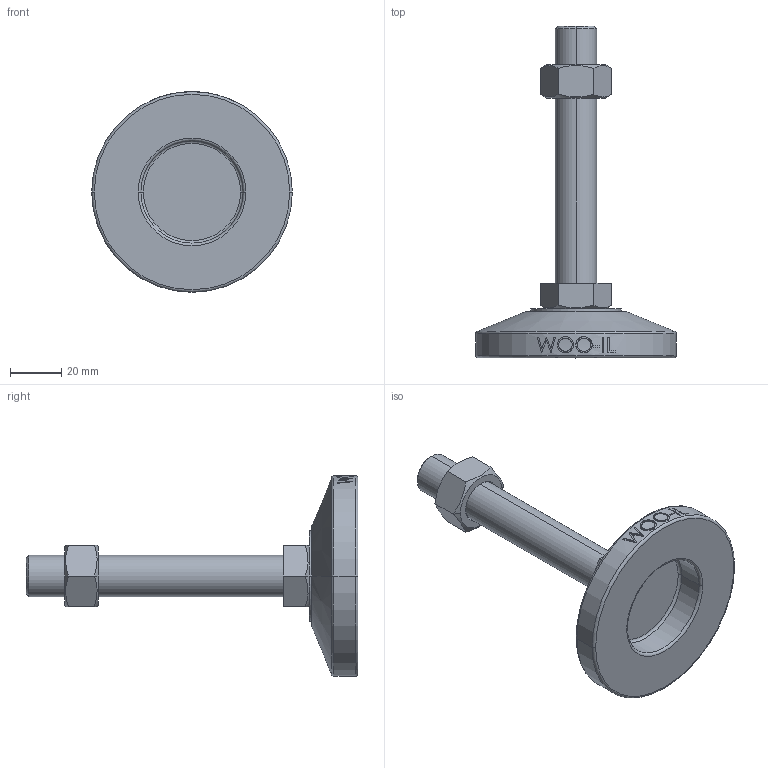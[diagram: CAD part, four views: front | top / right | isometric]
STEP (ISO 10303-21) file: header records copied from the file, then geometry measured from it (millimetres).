
FILE_DESCRIPTION (( 'STEP AP214' ), '1' );
FILE_NAME ('MFT78-M16-100.step', '2021-03-29T04:43:17', ( '' ), ( '' ), 'SwSTEP 2.0', 'SolidWorks 2019', '' );
FILE_SCHEMA (( 'AUTOMOTIVE_DESIGN' ));
Length unit declared in the file: millimetre
Products named in the file (2): MFT78-M16-100
Bounding box: 78 x 129 x 78 mm (x, y, z)
Volume: 85461.8 mm3; surface area: 22607 mm2
Topology: 3 solids, 3 shells, 106 faces, 243 edges, 154 vertices
Faces by surface type: plane 48, cylinder 18, bspline 16, cone 14, torus 10
Entity records: 4506 total; most frequent: CARTESIAN_POINT 2163, ORIENTED_EDGE 486, DIRECTION 439, EDGE_CURVE 243, AXIS2_PLACEMENT_3D 170, VERTEX_POINT 154, EDGE_LOOP 119, ADVANCED_FACE 106
